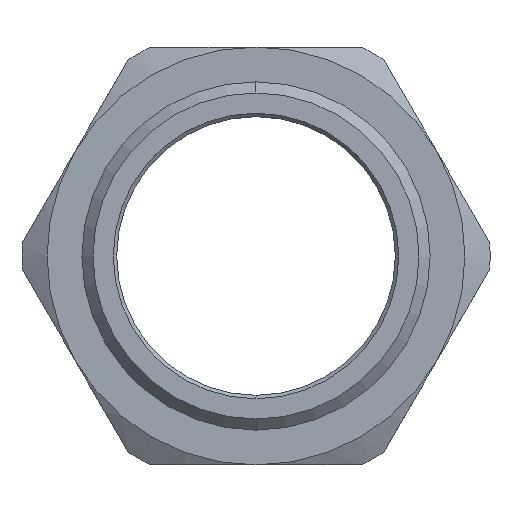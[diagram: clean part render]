
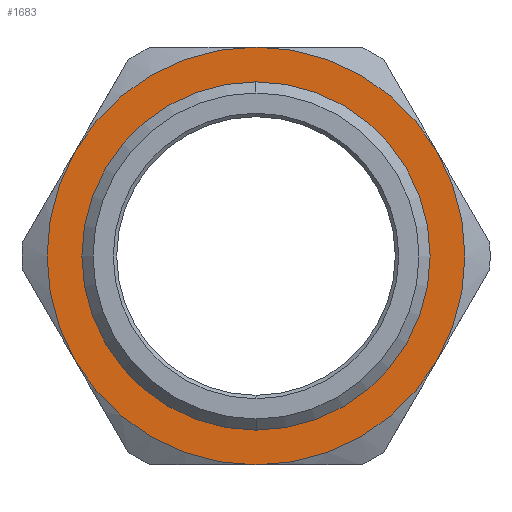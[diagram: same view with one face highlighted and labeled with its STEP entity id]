
A CAD part, left-side view. The second image highlights one B-rep face of the part: STEP entity #1683.
In plain terms, the highlighted planar face has unit normal (-1, 0, 0).
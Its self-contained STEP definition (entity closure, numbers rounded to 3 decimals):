
#70 = ORIENTED_EDGE ( 'NONE', *, *, #771, .F. ) ;
#71 = ORIENTED_EDGE ( 'NONE', *, *, #742, .T. ) ;
#73 = ORIENTED_EDGE ( 'NONE', *, *, #766, .T. ) ;
#74 = ORIENTED_EDGE ( 'NONE', *, *, #783, .F. ) ;
#76 = ORIENTED_EDGE ( 'NONE', *, *, #789, .F. ) ;
#82 = CIRCLE ( 'NONE', #743, 24.55 ) ;
#107 = CIRCLE ( 'NONE', #731, 30. ) ;
#111 = CIRCLE ( 'NONE', #725, 30. ) ;
#112 = CIRCLE ( 'NONE', #728, 24.55 ) ;
#118 = CIRCLE ( 'NONE', #726, 30. ) ;
#137 = CIRCLE ( 'NONE', #719, 30. ) ;
#142 = CIRCLE ( 'NONE', #716, 30. ) ;
#144 = CIRCLE ( 'NONE', #715, 30. ) ;
#263 = FACE_OUTER_BOUND ( 'NONE', #1821, .T. ) ;
#265 = FACE_BOUND ( 'NONE', #1799, .T. ) ;
#389 = ORIENTED_EDGE ( 'NONE', *, *, #763, .F. ) ;
#554 = VERTEX_POINT ( 'NONE', #1284 ) ;
#556 = VERTEX_POINT ( 'NONE', #1288 ) ;
#579 = VERTEX_POINT ( 'NONE', #1195 ) ;
#587 = VERTEX_POINT ( 'NONE', #1603 ) ;
#589 = VERTEX_POINT ( 'NONE', #1601 ) ;
#593 = VERTEX_POINT ( 'NONE', #1033 ) ;
#611 = VERTEX_POINT ( 'NONE', #1394 ) ;
#612 = VERTEX_POINT ( 'NONE', #1507 ) ;
#646 = ORIENTED_EDGE ( 'NONE', *, *, #788, .F. ) ;
#647 = ORIENTED_EDGE ( 'NONE', *, *, #770, .F. ) ;
#715 = AXIS2_PLACEMENT_3D ( 'NONE', #1499, #1498, #1497 ) ;
#716 = AXIS2_PLACEMENT_3D ( 'NONE', #1537, #1536, #1535 ) ;
#719 = AXIS2_PLACEMENT_3D ( 'NONE', #1510, #1445, #1444 ) ;
#725 = AXIS2_PLACEMENT_3D ( 'NONE', #1572, #1571, #1570 ) ;
#726 = AXIS2_PLACEMENT_3D ( 'NONE', #1577, #1576, #1575 ) ;
#728 = AXIS2_PLACEMENT_3D ( 'NONE', #1586, #1585, #1584 ) ;
#731 = AXIS2_PLACEMENT_3D ( 'NONE', #1596, #1595, #1594 ) ;
#742 = EDGE_CURVE ( 'NONE', #589, #554, #82, .T. ) ;
#743 = AXIS2_PLACEMENT_3D ( 'NONE', #1072, #1009, #1075 ) ;
#763 = EDGE_CURVE ( 'NONE', #612, #593, #107, .T. ) ;
#766 = EDGE_CURVE ( 'NONE', #554, #589, #112, .T. ) ;
#770 = EDGE_CURVE ( 'NONE', #611, #612, #118, .T. ) ;
#771 = EDGE_CURVE ( 'NONE', #556, #587, #111, .T. ) ;
#783 = EDGE_CURVE ( 'NONE', #593, #579, #137, .T. ) ;
#788 = EDGE_CURVE ( 'NONE', #587, #611, #142, .T. ) ;
#789 = EDGE_CURVE ( 'NONE', #579, #556, #144, .T. ) ;
#829 = AXIS2_PLACEMENT_3D ( 'NONE', #956, #949, #948 ) ;
#948 = DIRECTION ( 'NONE',  ( 0., 0., -1. ) ) ;
#949 = DIRECTION ( 'NONE',  ( 1., 0., 0. ) ) ;
#952 = PLANE ( 'NONE',  #829 ) ;
#956 = CARTESIAN_POINT ( 'NONE',  ( -26., 40., 0. ) ) ;
#1009 = DIRECTION ( 'NONE',  ( 1., 0., 0. ) ) ;
#1033 = CARTESIAN_POINT ( 'NONE',  ( -26., -25.981, 15. ) ) ;
#1072 = CARTESIAN_POINT ( 'NONE',  ( -26., 0., 0. ) ) ;
#1075 = DIRECTION ( 'NONE',  ( 0., 0., -1. ) ) ;
#1195 = CARTESIAN_POINT ( 'NONE',  ( -26., -25.981, -15. ) ) ;
#1284 = CARTESIAN_POINT ( 'NONE',  ( -26., 0., 24.55 ) ) ;
#1288 = CARTESIAN_POINT ( 'NONE',  ( -26., 0., -30. ) ) ;
#1394 = CARTESIAN_POINT ( 'NONE',  ( -26., 25.981, 15. ) ) ;
#1444 = DIRECTION ( 'NONE',  ( 0., 0., -1. ) ) ;
#1445 = DIRECTION ( 'NONE',  ( 1., 0., 0. ) ) ;
#1497 = DIRECTION ( 'NONE',  ( 0., 0., -1. ) ) ;
#1498 = DIRECTION ( 'NONE',  ( 1., 0., 0. ) ) ;
#1499 = CARTESIAN_POINT ( 'NONE',  ( -26., 0., 0. ) ) ;
#1507 = CARTESIAN_POINT ( 'NONE',  ( -26., 0., 30. ) ) ;
#1510 = CARTESIAN_POINT ( 'NONE',  ( -26., 0., 0. ) ) ;
#1535 = DIRECTION ( 'NONE',  ( 0., 0., -1. ) ) ;
#1536 = DIRECTION ( 'NONE',  ( 1., 0., 0. ) ) ;
#1537 = CARTESIAN_POINT ( 'NONE',  ( -26., 0., 0. ) ) ;
#1570 = DIRECTION ( 'NONE',  ( 0., 0., -1. ) ) ;
#1571 = DIRECTION ( 'NONE',  ( 1., 0., 0. ) ) ;
#1572 = CARTESIAN_POINT ( 'NONE',  ( -26., 0., 0. ) ) ;
#1575 = DIRECTION ( 'NONE',  ( 0., 0., -1. ) ) ;
#1576 = DIRECTION ( 'NONE',  ( 1., 0., 0. ) ) ;
#1577 = CARTESIAN_POINT ( 'NONE',  ( -26., 0., 0. ) ) ;
#1584 = DIRECTION ( 'NONE',  ( 0., 0., -1. ) ) ;
#1585 = DIRECTION ( 'NONE',  ( 1., 0., 0. ) ) ;
#1586 = CARTESIAN_POINT ( 'NONE',  ( -26., 0., 0. ) ) ;
#1594 = DIRECTION ( 'NONE',  ( 0., 0., -1. ) ) ;
#1595 = DIRECTION ( 'NONE',  ( 1., 0., 0. ) ) ;
#1596 = CARTESIAN_POINT ( 'NONE',  ( -26., 0., 0. ) ) ;
#1601 = CARTESIAN_POINT ( 'NONE',  ( -26., 0., -24.55 ) ) ;
#1603 = CARTESIAN_POINT ( 'NONE',  ( -26., 25.981, -15. ) ) ;
#1683 = ADVANCED_FACE ( 'NONE', ( #265, #263 ), #952, .F. ) ;
#1799 = EDGE_LOOP ( 'NONE', ( #71, #73 ) ) ;
#1821 = EDGE_LOOP ( 'NONE', ( #70, #76, #74, #389, #647, #646 ) ) ;
